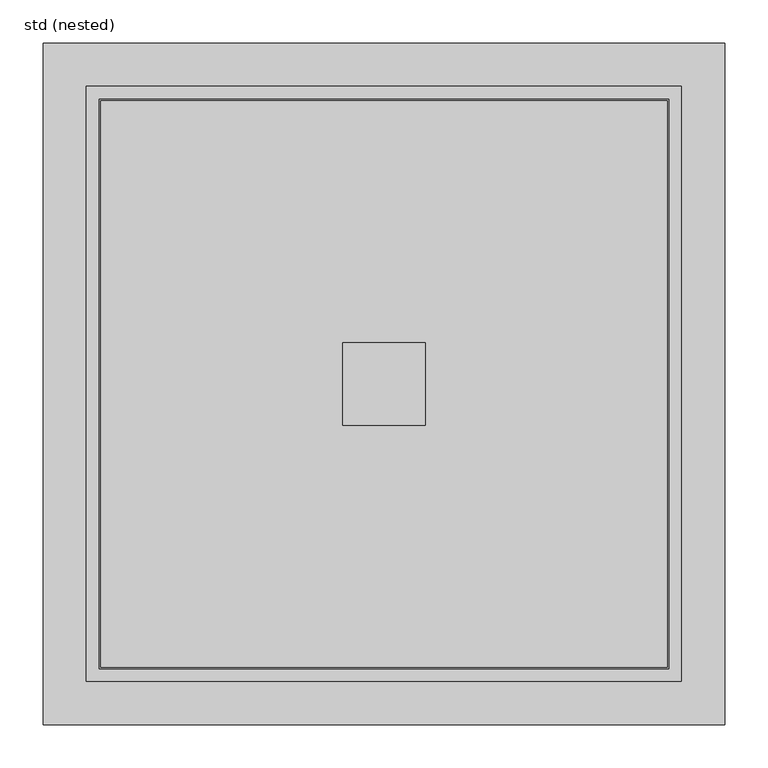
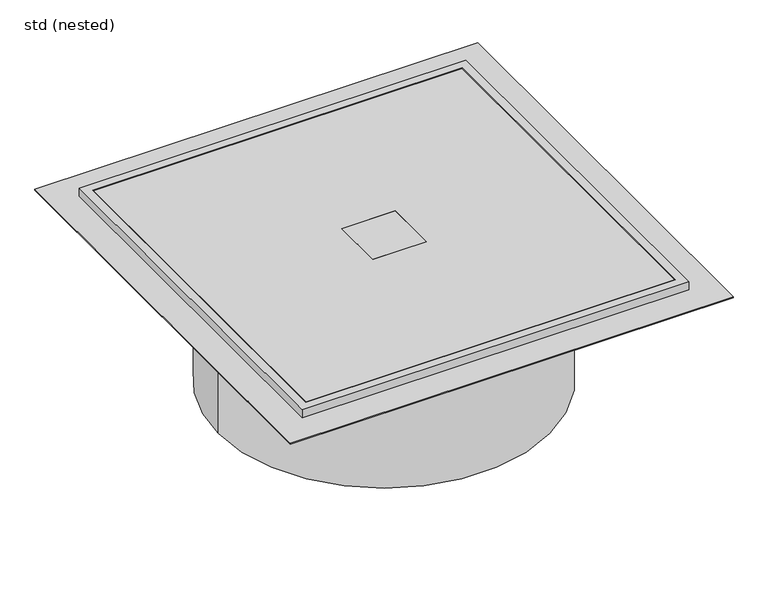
"""IFC4 building model written with IfcOpenShell, lengths in millimetres: unitary equipment geometry, ZZZ_do not use_ME_WPB_top section muliflex_ACO -SH : std (nested)."""

from ifc_helpers import new_model, si_unit, frame, origin, place, context, project, spatial, polyline, circle_curve, outline, extrude, source, transform, mapped, element, save
from ifc_brep_helpers import plane_surface, cylinder_surface, revolved_surface, advanced_brep


def std_nested_2ecfbaac(model_context):
    return source(origin(), model_context, "Body", "SolidModel", [
        extrude(outline(polyline([(47.5, -47.5), (-47.5, -47.5), (-47.5, 47.5), (47.5, 47.5), (47.5, -47.5)])), frame((0.0, 0.0, -35.5), z_axis=(0.0, 0.0, 1.0), x_axis=(1.0, 0.0, 0.0)), (0.0, 0.0, 1.0), 35.5),
        extrude(outline(polyline([(327.5, -327.5), (-327.5, -327.5), (-327.5, 327.5), (327.5, 327.5), (327.5, -327.5)]), holes=[polyline([(-47.5, -47.5), (47.5, -47.5), (47.5, 47.5), (-47.5, 47.5), (-47.5, -47.5)])]), frame((0.0, 0.0, -35.5), z_axis=(0.0, 0.0, 1.0), x_axis=(1.0, 0.0, 0.0)), (0.0, 0.0, 1.0), 35.5),
        advanced_brep(
        [(394.0, -394.0, -15.0), (394.0, 394.0, -15.0), (-394.0, 394.0, -15.0), (-394.0, -394.0, -15.0), (344.0, 344.0, -15.0), (344.0, -344.0, -15.0), (-344.0, -344.0, -15.0), (-344.0, 344.0, -15.0), (394.0, -394.0, -16.5), (-394.0, -394.0, -16.5), (-394.0, 394.0, -16.5), (394.0, 394.0, -16.5), (330.5, -330.5, -16.5), (330.5, 330.5, -16.5), (-330.5, 330.5, -16.5), (-330.5, -330.5, -16.5), (-329.0, 329.0, 0.0), (-329.0, -329.0, 0.0), (-329.0, -329.0, -35.5), (-329.0, 329.0, -35.5), (329.0, 329.0, 0.0), (329.0, 329.0, -35.5), (329.0, -329.0, 0.0), (329.0, -329.0, -35.5), (344.0, -344.0, 0.0), (344.0, 344.0, 0.0), (-344.0, 344.0, 0.0), (-344.0, -344.0, 0.0), (295.0, 0.0, -270.0), (-295.0, 0.0, -270.0), (293.5, 0.0, -270.0), (-293.5, 0.0, -270.0), (295.0, 0.0, -37.0), (-295.0, 0.0, -37.0), (293.5, 0.0, -37.0), (-293.5, 0.0, -37.0), (330.5, -330.5, -37.0), (-330.5, -330.5, -37.0), (-330.5, 330.5, -37.0), (330.5, 330.5, -37.0), (293.5, 0.0, -35.5), (-293.5, 0.0, -35.5)],
        [
            (0, 1),
            (1, 2),
            (2, 3),
            (3, 0),
            (4, 5),
            (5, 6),
            (6, 7),
            (7, 4),
            (8, 9),
            (9, 10),
            (10, 11),
            (11, 8),
            (12, 13),
            (13, 14),
            (14, 15),
            (15, 12),
            (0, 8),
            (11, 1),
            (10, 2),
            (9, 3),
            (16, 17),
            (17, 18),
            (18, 19),
            (19, 16),
            (20, 16),
            (19, 21),
            (21, 20),
            (22, 20),
            (21, 23),
            (23, 22),
            (17, 22),
            (23, 18),
            (24, 25),
            (25, 26),
            (26, 27),
            (27, 24),
            (24, 5),
            (4, 25),
            (7, 26),
            (6, 27),
            (28, 29, circle_curve(frame((0.0, 0.0, -270.0), z_axis=(0.0, 0.0, -1.0), x_axis=(-1.0, 0.0, 0.0)), 295.0)),
            (29, 28, circle_curve(frame((0.0, 0.0, -270.0), z_axis=(0.0, 0.0, -1.0), x_axis=(-1.0, 0.0, 0.0)), 295.0)),
            (30, 31, circle_curve(frame((0.0, 0.0, -270.0), z_axis=(0.0, 0.0, 1.0), x_axis=(-1.0, 0.0, 0.0)), 293.5)),
            (31, 30, circle_curve(frame((0.0, 0.0, -270.0), z_axis=(0.0, 0.0, 1.0), x_axis=(-1.0, 0.0, 0.0)), 293.5)),
            (28, 32),
            (32, 33, circle_curve(frame((0.0, 0.0, -37.0), z_axis=(0.0, 0.0, -1.0), x_axis=(-1.0, 0.0, 0.0)), 295.0)),
            (33, 29),
            (33, 32, circle_curve(frame((0.0, 0.0, -37.0), z_axis=(0.0, 0.0, -1.0), x_axis=(-1.0, 0.0, 0.0)), 295.0)),
            (30, 34),
            (34, 35, circle_curve(frame((0.0, 0.0, -37.0), z_axis=(0.0, 0.0, 1.0), x_axis=(-1.0, 0.0, 0.0)), 293.5)),
            (35, 31),
            (35, 34, circle_curve(frame((0.0, 0.0, -37.0), z_axis=(0.0, 0.0, 1.0), x_axis=(-1.0, 0.0, 0.0)), 293.5)),
            (36, 37),
            (37, 38),
            (38, 39),
            (39, 36),
            (40, 41, circle_curve(frame((0.0, 0.0, -35.5), z_axis=(0.0, 0.0, -1.0), x_axis=(-1.0, 0.0, 0.0)), 293.5)),
            (41, 40, circle_curve(frame((0.0, 0.0, -35.5), z_axis=(0.0, 0.0, -1.0), x_axis=(-1.0, 0.0, 0.0)), 293.5)),
            (41, 35),
            (34, 40),
            (39, 13),
            (12, 36),
            (38, 14),
            (37, 15),
        ],
        [
            plane_surface(frame((0.0, 0.0, -15.0), z_axis=(0.0, 0.0, 1.0), x_axis=(0.0, -1.0, 0.0))),
            plane_surface(frame((0.0, 0.0, -16.5), z_axis=(0.0, 0.0, -1.0), x_axis=(0.0, -1.0, 0.0))),
            plane_surface(frame((394.0, -394.0, -15.0), z_axis=(1.0, 0.0, 0.0), x_axis=(0.0, 0.0, -1.0))),
            plane_surface(frame((394.0, 394.0, -15.0), z_axis=(0.0, 1.0, 0.0), x_axis=(0.0, 0.0, -1.0))),
            plane_surface(frame((-394.0, 394.0, -15.0), z_axis=(-1.0, 0.0, 0.0), x_axis=(0.0, 0.0, -1.0))),
            plane_surface(frame((-394.0, -394.0, -15.0), z_axis=(0.0, -1.0, 0.0), x_axis=(0.0, 0.0, -1.0))),
            plane_surface(frame((-329.0, -329.0, -15.0), z_axis=(1.0, 0.0, 0.0), x_axis=(0.0, 0.0, -1.0))),
            plane_surface(frame((-329.0, 329.0, -15.0), z_axis=(0.0, -1.0, 0.0), x_axis=(0.0, 0.0, -1.0))),
            plane_surface(frame((329.0, 329.0, -15.0), z_axis=(-1.0, 0.0, 0.0), x_axis=(0.0, 0.0, -1.0))),
            plane_surface(frame((329.0, -329.0, -15.0), z_axis=(0.0, 1.0, 0.0), x_axis=(0.0, 0.0, -1.0))),
            plane_surface(frame((0.0, 0.0, 0.0), z_axis=(0.0, 0.0, 1.0), x_axis=(0.0, -1.0, 0.0))),
            plane_surface(frame((344.0, -344.0, 0.0), z_axis=(1.0, 0.0, 0.0), x_axis=(0.0, 0.0, -1.0))),
            plane_surface(frame((344.0, 344.0, 0.0), z_axis=(0.0, 1.0, 0.0), x_axis=(0.0, 0.0, -1.0))),
            plane_surface(frame((-344.0, 344.0, 0.0), z_axis=(-1.0, 0.0, 0.0), x_axis=(0.0, 0.0, -1.0))),
            plane_surface(frame((-344.0, -344.0, 0.0), z_axis=(0.0, -1.0, 0.0), x_axis=(0.0, 0.0, -1.0))),
            plane_surface(frame((0.0, 0.0, -270.0), z_axis=(0.0, 0.0, -1.0), x_axis=(0.0, -1.0, 0.0))),
            cylinder_surface(frame((0.0, 0.0, -270.0), z_axis=(0.0, 0.0, -1.0), x_axis=(-1.0, 0.0, 0.0)), 295.0),
            revolved_surface(polyline([(-293.5, 0.0, -37.0), (-293.5, 0.0, -270.0)]), (0.0, 0.0, -270.0), (0.0, 0.0, 1.0)),
            plane_surface(frame((0.0, 0.0, -37.0), z_axis=(0.0, 0.0, -1.0), x_axis=(0.0, -1.0, 0.0))),
            plane_surface(frame((0.0, 0.0, -35.5), z_axis=(0.0, 0.0, 1.0), x_axis=(0.0, -1.0, 0.0))),
            revolved_surface(polyline([(-293.5, 0.0, -35.5), (-293.5, 0.0, -37.0)]), (0.0, 0.0, -37.0), (0.0, 0.0, 1.0)),
            plane_surface(frame((330.5, -330.5, -16.5), z_axis=(1.0, 0.0, 0.0), x_axis=(0.0, 0.0, -1.0))),
            plane_surface(frame((330.5, 330.5, -16.5), z_axis=(0.0, 1.0, 0.0), x_axis=(0.0, 0.0, -1.0))),
            plane_surface(frame((-330.5, 330.5, -16.5), z_axis=(-1.0, 0.0, 0.0), x_axis=(0.0, 0.0, -1.0))),
            plane_surface(frame((-330.5, -330.5, -16.5), z_axis=(0.0, -1.0, 0.0), x_axis=(0.0, 0.0, -1.0))),
        ],
        [
            (0, [[1, 2, 3, 4], [5, 6, 7, 8]]),
            (1, [[9, 10, 11, 12], [13, 14, 15, 16]]),
            (2, [[-1, 17, -12, 18]]),
            (3, [[-2, -18, -11, 19]]),
            (4, [[-3, -19, -10, 20]]),
            (5, [[-4, -20, -9, -17]]),
            (6, [[21, 22, 23, 24]]),
            (7, [[25, -24, 26, 27]]),
            (8, [[28, -27, 29, 30]]),
            (9, [[-22, 31, -30, 32]]),
            (10, [[33, 34, 35, 36], [-21, -25, -28, -31]]),
            (11, [[-33, 37, -5, 38]]),
            (12, [[-34, -38, -8, 39]]),
            (13, [[-35, -39, -7, 40]]),
            (14, [[-36, -40, -6, -37]]),
            (15, [[41, 42], [43, 44]]),
            (16, [[-41, 45, 46, 47]]),
            (16, [[-42, -47, 48, -45]]),
            (17, [[-43, 49, 50, 51]]),
            (17, [[-44, -51, 52, -49]]),
            (18, [[53, 54, 55, 56], [-46, -48]]),
            (19, [[-23, -32, -29, -26], [57, 58]]),
            (20, [[-58, 59, -50, 60]]),
            (20, [[-57, -60, -52, -59]]),
            (21, [[-56, 61, -13, 62]]),
            (22, [[-55, 63, -14, -61]]),
            (23, [[-54, 64, -15, -63]]),
            (24, [[-53, -62, -16, -64]]),
        ],
    ),
    ])


if __name__ == "__main__":
    model = new_model("IFC4")
    model_context = context("Model", 3, world=origin())
    ifc_project = project(units=[si_unit("LENGTHUNIT", "METRE", prefix="MILLI")], contexts=[model_context])
    site = spatial("IfcSite", under=ifc_project)
    building = spatial("IfcBuilding", under=site)
    placement = place(None, origin())
    std_nested_shape = std_nested_2ecfbaac(model_context)
    element("IfcUnitaryEquipment", 1, ObjectType="ZZZ_do not use_ME_WPB_top section muliflex_ACO -SH : std (nested)", at=placement, inside=building, context=model_context, shape_type="MappedRepresentation", body=[
        mapped(std_nested_shape, transform((0.0, 0.0, 0.0), x_axis=(1.0, 0.0, 0.0), y_axis=(0.0, 1.0, 0.0), z_axis=(0.0, 0.0, 1.0))),
    ])
    save(model, "model.ifc")
